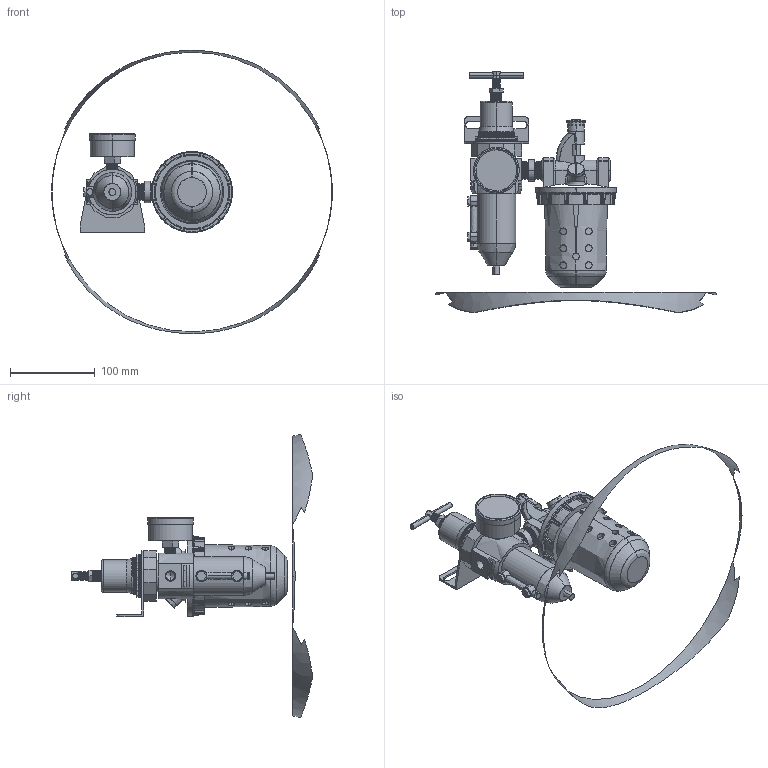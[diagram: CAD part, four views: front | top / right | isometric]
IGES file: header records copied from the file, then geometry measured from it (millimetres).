
Start section: SolidWorks IGES file using analytic representation for surfaces
Global section: file name: D:\Custom\3D繪製\FRL\BL系列\U668-04#YB#.IGS; native system: SolidWorks 2014; preprocessor: SolidWorks 2014; author: Chieh_Lu; date: 160115.011508; units: millimetre
Bounding box: 331.4 x 284.89 x 334.08 mm (x, y, z)
Surface area: 149766.7 mm2 (no closed solid volume)
Topology: 0 solids, 0 shells, 1245 faces, 16858 edges, 16845 vertices
Faces by surface type: bspline 744, revolution 501
